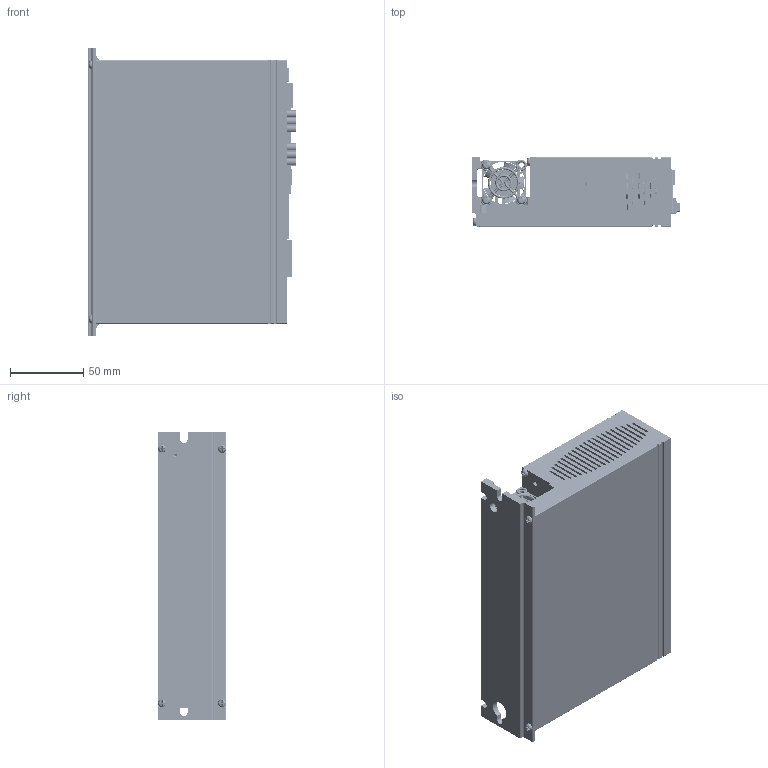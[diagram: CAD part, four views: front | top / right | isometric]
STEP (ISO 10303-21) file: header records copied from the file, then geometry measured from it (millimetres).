
FILE_DESCRIPTION((''),'2;1');
FILE_NAME('SW5_ISD00_ASM','2020-07-29T10:38:20',('Matteo Maccalli'),(''),'CREO PARAMETRIC BY PTC INC, 2019344','CREO PARAMETRIC BY PTC INC, 2019344','');
FILE_SCHEMA(('AUTOMOTIVE_DESIGN { 1 0 10303 214 1 1 1 1 }'));
Products named in the file (211): ISD00_DISSIPATORE-03; AD_00883-03_ISD00; SCATOLA_SW5_D-04; ACC_2E9X9E5; FAN-HOUSE-30X30X10-PROMOCO_FAN-; FAN-30X30X10-PROMOCO_FAN-KDE050; GRIGLIA_30X30; ACC_2E9X19; ISD00_EARTH_FIX-01; AD_01053_ISD00_BLK; BOARD-185; CPP_4X13X9_P10_1_2; CY204_1_ASM; CPP_4X13X9_P10; CY203_1_ASM; CY202_1_ASM; 79202-X02LF; JMP500_ASM; CE_35X30_P10; CE202_ASM; BOARD-38953; USER_LIBRARY-TSSOP-16-1_1_2; IC402_ASM; USER_LIBRARY-ARRAY-1206-4-58410; USER_LIBRARY-ARRAY-1206-4-68119; USER_LIBRARY-ARRAY-1206-4-70352; USER_LIBRARY-ARRAY-1206-4-76785; USER_LIBRARY-ARRAY-1206-4-58388_ASM; RN403_ASM; RN402_ASM; RN401_ASM; RN105_ASM; RN104_ASM; USER_LIBRARY-RES0603-1_1_2; R405_ASM; USER_LIBRARY-TSSOP-16-1; IC401_ASM; IC100_ASM; SW3DPS-0603_SMD_CAPACITOR_1_2; C401_ASM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
Assembly tree (241 placements, depth 8):
  SW5_ISD00_ASM
    ISD00_DISSIPATORE-03
    AD_00883-03_ISD00
    SCATOLA_SW5_D-04
    ACC_2E9X9E5  x4
    FAN-HOUSE-30X30X10-PROMOCO_FAN-
    FAN-30X30X10-PROMOCO_FAN-KDE050
    GRIGLIA_30X30
    ACC_2E9X19  x3
    ISD00_EARTH_FIX-01
    AD_01053_ISD00_BLK
    ASM0001_ASM
      PCB_ASM
        BOARD-185
        CY204_1_ASM
          CPP_4X13X9_P10_1_2
        CY203_1_ASM
          CPP_4X13X9_P10
        CY202_1_ASM
          CPP_4X13X9_P10
        JMP500_ASM
          79202-X02LF  x2
        CE202_ASM
          CE_35X30_P10
        VIS400-38854_ASM
          ISD00VIS-02_ASM
            BOARD-38953
            IC402_ASM
              USER_LIBRARY-TSSOP-16-1_1_2
            RN403_ASM
              USER_LIBRARY-ARRAY-1206-4-58388_ASM
                USER_LIBRARY-ARRAY-1206-4-58410
                USER_LIBRARY-ARRAY-1206-4-68119
                USER_LIBRARY-ARRAY-1206-4-70352
                USER_LIBRARY-ARRAY-1206-4-76785
            RN402_ASM
              USER_LIBRARY-ARRAY-1206-4-58388_ASM
                USER_LIBRARY-ARRAY-1206-4-58410
                USER_LIBRARY-ARRAY-1206-4-68119
                USER_LIBRARY-ARRAY-1206-4-70352
                USER_LIBRARY-ARRAY-1206-4-76785
            RN401_ASM
              USER_LIBRARY-ARRAY-1206-4-58388_ASM
                USER_LIBRARY-ARRAY-1206-4-58410
                USER_LIBRARY-ARRAY-1206-4-68119
                USER_LIBRARY-ARRAY-1206-4-70352
                USER_LIBRARY-ARRAY-1206-4-76785
            RN105_ASM
              USER_LIBRARY-ARRAY-1206-4-58388_ASM
                USER_LIBRARY-ARRAY-1206-4-58410
                USER_LIBRARY-ARRAY-1206-4-68119
                USER_LIBRARY-ARRAY-1206-4-70352
                USER_LIBRARY-ARRAY-1206-4-76785
            RN104_ASM
              USER_LIBRARY-ARRAY-1206-4-58388_ASM
                USER_LIBRARY-ARRAY-1206-4-58410
                USER_LIBRARY-ARRAY-1206-4-68119
                USER_LIBRARY-ARRAY-1206-4-70352
                USER_LIBRARY-ARRAY-1206-4-76785
            R405_ASM
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Bounding box: 142.78 x 47 x 196.6 mm (x, y, z)
Volume: 470383.1 mm3; surface area: 368526.7 mm2
Topology: 165 solids, 172 shells, 17140 faces, 47154 edges, 30637 vertices
Faces by surface type: plane 11366, cylinder 3908, extrusion 896, cone 523, bspline 212, sphere 126, torus 109
Entity records: 646463 total; most frequent: CARTESIAN_POINT 116374, ORIENTED_EDGE 77482, DIRECTION 68706, PRESENTATION_STYLE_ASSIGNMENT 43312, EDGE_CURVE 38755, STYLED_ITEM 35482, CURVE_STYLE 35000, VECTOR 28510
